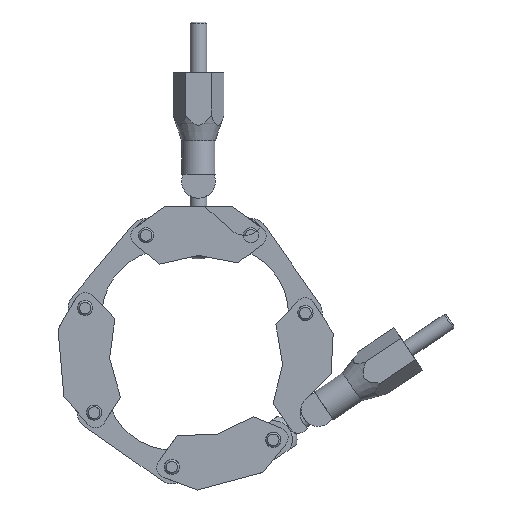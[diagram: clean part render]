
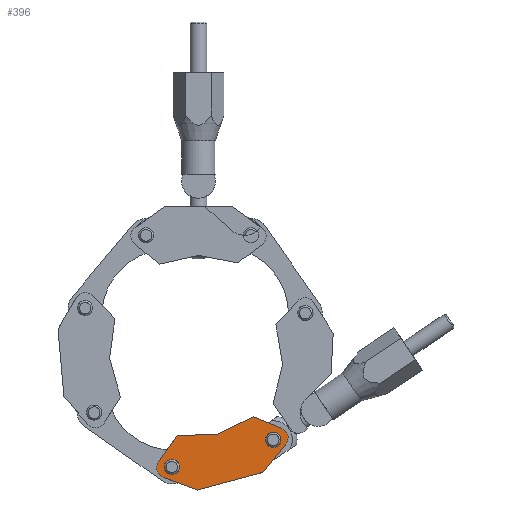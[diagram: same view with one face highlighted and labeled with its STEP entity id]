
A CAD part, front view. The second image highlights one B-rep face of the part: STEP entity #396.
In plain terms, the highlighted planar face has unit normal (0, -1, 0) as drawn and (0, 1, 0) by its records, which use the part's own axes.
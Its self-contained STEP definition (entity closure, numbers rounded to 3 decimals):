
#396 = ADVANCED_FACE( '', ( #704, #705, #706 ), #707, .T. );
#704 = FACE_BOUND( '', #1036, .T. );
#705 = FACE_BOUND( '', #1037, .T. );
#706 = FACE_OUTER_BOUND( '', #1038, .T. );
#707 = PLANE( '', #1039 );
#1036 = EDGE_LOOP( '', ( #1909 ) );
#1037 = EDGE_LOOP( '', ( #1910 ) );
#1038 = EDGE_LOOP( '', ( #1911, #1912, #1913, #1914, #1915, #1916, #1917, #1918, #1919 ) );
#1039 = AXIS2_PLACEMENT_3D( '', #1920, #1921, #1922 );
#1909 = ORIENTED_EDGE( '', *, *, #2525, .F. );
#1910 = ORIENTED_EDGE( '', *, *, #2526, .F. );
#1911 = ORIENTED_EDGE( '', *, *, #2524, .T. );
#1912 = ORIENTED_EDGE( '', *, *, #2527, .T. );
#1913 = ORIENTED_EDGE( '', *, *, #2528, .T. );
#1914 = ORIENTED_EDGE( '', *, *, #2529, .T. );
#1915 = ORIENTED_EDGE( '', *, *, #2530, .T. );
#1916 = ORIENTED_EDGE( '', *, *, #2482, .T. );
#1917 = ORIENTED_EDGE( '', *, *, #2465, .T. );
#1918 = ORIENTED_EDGE( '', *, *, #2531, .T. );
#1919 = ORIENTED_EDGE( '', *, *, #2521, .T. );
#1920 = CARTESIAN_POINT( '', ( -17.002, 10.25, -0.164 ) );
#1921 = DIRECTION( '', ( 0., 1., 0. ) );
#1922 = DIRECTION( '', ( 0., 0., 1. ) );
#2465 = EDGE_CURVE( '', #2962, #2960, #2963, .T. );
#2482 = EDGE_CURVE( '', #2993, #2962, #2994, .T. );
#2521 = EDGE_CURVE( '', #3060, #3058, #3061, .T. );
#2524 = EDGE_CURVE( '', #3058, #3063, #3065, .T. );
#2525 = EDGE_CURVE( '', #3066, #3066, #3067, .T. );
#2526 = EDGE_CURVE( '', #3068, #3068, #3069, .T. );
#2527 = EDGE_CURVE( '', #3063, #3070, #3071, .T. );
#2528 = EDGE_CURVE( '', #3070, #3072, #3073, .T. );
#2529 = EDGE_CURVE( '', #3072, #3074, #3075, .T. );
#2530 = EDGE_CURVE( '', #3074, #2993, #3076, .T. );
#2531 = EDGE_CURVE( '', #2960, #3060, #3077, .T. );
#2960 = VERTEX_POINT( '', #3668 );
#2962 = VERTEX_POINT( '', #3671 );
#2963 = LINE( '', #3672, #3673 );
#2993 = VERTEX_POINT( '', #3717 );
#2994 = LINE( '', #3718, #3719 );
#3058 = VERTEX_POINT( '', #3816 );
#3060 = VERTEX_POINT( '', #3819 );
#3061 = LINE( '', #3820, #3821 );
#3063 = VERTEX_POINT( '', #3824 );
#3065 = LINE( '', #3827, #3828 );
#3066 = VERTEX_POINT( '', #3829 );
#3067 = CIRCLE( '', #3830, 2.25 );
#3068 = VERTEX_POINT( '', #3831 );
#3069 = CIRCLE( '', #3832, 2.25 );
#3070 = VERTEX_POINT( '', #3833 );
#3071 = LINE( '', #3834, #3835 );
#3072 = VERTEX_POINT( '', #3836 );
#3073 = LINE( '', #3837, #3838 );
#3074 = VERTEX_POINT( '', #3839 );
#3075 = CIRCLE( '', #3840, 3. );
#3076 = LINE( '', #3841, #3842 );
#3077 = CIRCLE( '', #3843, 3. );
#3668 = CARTESIAN_POINT( '', ( 18.756, 10.25, 2.173 ) );
#3671 = CARTESIAN_POINT( '', ( 10.005, 10.25, 8.5 ) );
#3672 = CARTESIAN_POINT( '', ( 10.005, 10.25, 8.5 ) );
#3673 = VECTOR( '', #4613, 1000. );
#3717 = CARTESIAN_POINT( '', ( -10.005, 10.25, 8.5 ) );
#3718 = CARTESIAN_POINT( '', ( -10.005, 10.25, 8.5 ) );
#3719 = VECTOR( '', #4634, 1000. );
#3816 = CARTESIAN_POINT( '', ( 11.624, 10.25, -8.112 ) );
#3819 = CARTESIAN_POINT( '', ( 18.814, 10.25, -2.646 ) );
#3820 = CARTESIAN_POINT( '', ( 18.814, 10.25, -2.646 ) );
#3821 = VECTOR( '', #4681, 1000. );
#3824 = CARTESIAN_POINT( '', ( 0., 10.25, -5.911 ) );
#3827 = CARTESIAN_POINT( '', ( 11.624, 10.25, -8.112 ) );
#3828 = VECTOR( '', #4684, 1000. );
#3829 = CARTESIAN_POINT( '', ( -15.5, 10.25, 2.25 ) );
#3830 = AXIS2_PLACEMENT_3D( '', #4685, #4686, #4687 );
#3831 = CARTESIAN_POINT( '', ( 15.5, 10.25, 2.25 ) );
#3832 = AXIS2_PLACEMENT_3D( '', #4688, #4689, #4690 );
#3833 = CARTESIAN_POINT( '', ( -11.543, 10.25, -8.5 ) );
#3834 = CARTESIAN_POINT( '', ( 0., 10.25, -5.911 ) );
#3835 = VECTOR( '', #4691, 1000. );
#3836 = CARTESIAN_POINT( '', ( -18.9, 10.25, -2.487 ) );
#3837 = CARTESIAN_POINT( '', ( -11.543, 10.25, -8.5 ) );
#3838 = VECTOR( '', #4692, 1000. );
#3839 = CARTESIAN_POINT( '', ( -18.742, 10.25, 2.28 ) );
#3840 = AXIS2_PLACEMENT_3D( '', #4693, #4694, #4695 );
#3841 = CARTESIAN_POINT( '', ( -18.742, 10.25, 2.28 ) );
#3842 = VECTOR( '', #4696, 1000. );
#3843 = AXIS2_PLACEMENT_3D( '', #4697, #4698, #4699 );
#4613 = DIRECTION( '', ( 0.81, 0., -0.586 ) );
#4634 = DIRECTION( '', ( 1., 0., 0. ) );
#4681 = DIRECTION( '', ( -0.796, 0., -0.605 ) );
#4684 = DIRECTION( '', ( -0.983, 0., 0.186 ) );
#4685 = CARTESIAN_POINT( '', ( -15.5, 10.25, 0. ) );
#4686 = DIRECTION( '', ( 0., 1., 0. ) );
#4687 = DIRECTION( '', ( 0., 0., 1. ) );
#4688 = CARTESIAN_POINT( '', ( 15.5, 10.25, 0. ) );
#4689 = DIRECTION( '', ( 0., 1., 0. ) );
#4690 = DIRECTION( '', ( 0., 0., 1. ) );
#4691 = DIRECTION( '', ( -0.976, 0., -0.219 ) );
#4692 = DIRECTION( '', ( -0.774, 0., 0.633 ) );
#4693 = CARTESIAN_POINT( '', ( -17.002, 10.25, -0.164 ) );
#4694 = DIRECTION( '', ( 0., 1., 0. ) );
#4695 = DIRECTION( '', ( 1., 0., 0. ) );
#4696 = DIRECTION( '', ( 0.815, 0., 0.58 ) );
#4697 = CARTESIAN_POINT( '', ( 16.998, 10.25, -0.258 ) );
#4698 = DIRECTION( '', ( 0., 1., 0. ) );
#4699 = DIRECTION( '', ( -1., 0., 0. ) );
